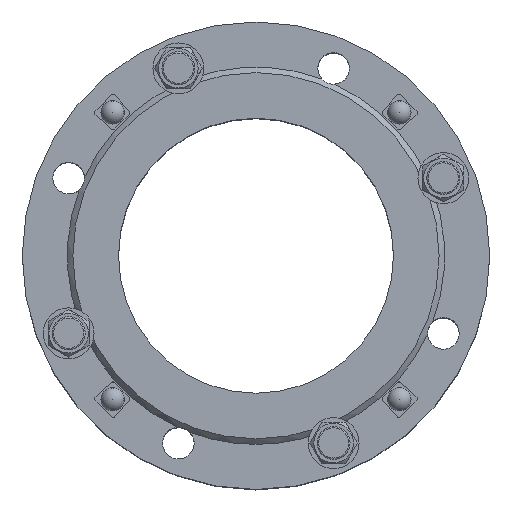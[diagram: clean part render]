
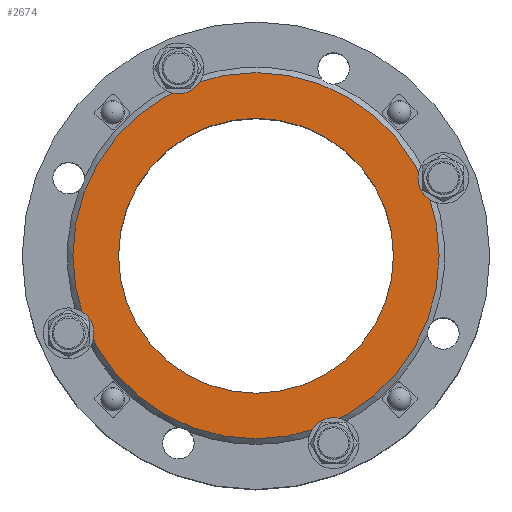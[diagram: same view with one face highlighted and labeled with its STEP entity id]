
A CAD part, top view. The second image highlights one B-rep face of the part: STEP entity #2674.
In plain terms, the highlighted planar face has unit normal (0, 0, 1) as drawn and (0, 0, -1) by its records, which use the part's own axes.
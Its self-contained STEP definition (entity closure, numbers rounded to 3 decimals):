
#2674=ADVANCED_FACE('',(#3899,#3901),#3903,.F.);
#3899=FACE_BOUND('',#3900,.T.);
#3900=EDGE_LOOP('',(#5651));
#3901=FACE_BOUND('',#3902,.T.);
#3902=EDGE_LOOP('',(#5652));
#3903=PLANE('',#3904);
#3904=AXIS2_PLACEMENT_3D('',#3905,#3906,#3907);
#3905=CARTESIAN_POINT('',(0.,0.,0.));
#3906=DIRECTION('',(0.,0.,1.));
#3907=DIRECTION('',(-1.,0.,0.));
#5651=ORIENTED_EDGE('',*,*,#6301,.F.);
#5652=ORIENTED_EDGE('',*,*,#6367,.T.);
#6301=EDGE_CURVE('',#7084,#7084,#7085,.T.);
#6367=EDGE_CURVE('',#7184,#7184,#7185,.T.);
#7084=VERTEX_POINT('',#12607);
#7085=CIRCLE('',#12608,133.2);
#7184=VERTEX_POINT('',#12857);
#7185=CIRCLE('',#12858,100.);
#12607=CARTESIAN_POINT('',(-133.2,0.,0.));
#12608=AXIS2_PLACEMENT_3D('',#12609,#12610,#12611);
#12609=CARTESIAN_POINT('',(0.,0.,0.));
#12610=DIRECTION('',(0.,0.,1.));
#12611=DIRECTION('',(-1.,0.,0.));
#12857=CARTESIAN_POINT('',(-100.,0.,0.));
#12858=AXIS2_PLACEMENT_3D('',#12859,#12860,#12861);
#12859=CARTESIAN_POINT('',(0.,0.,0.));
#12860=DIRECTION('',(0.,0.,1.));
#12861=DIRECTION('',(-1.,0.,0.));
